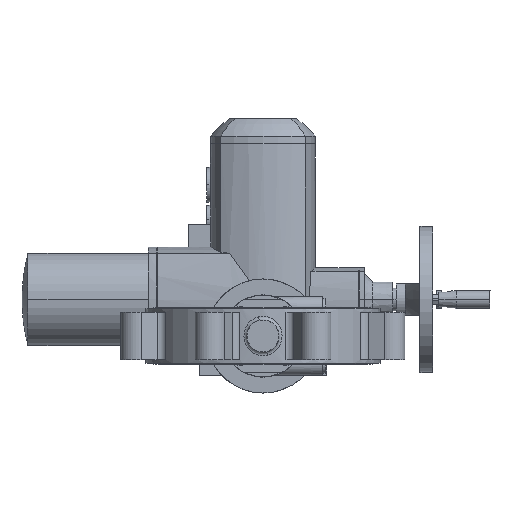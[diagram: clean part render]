
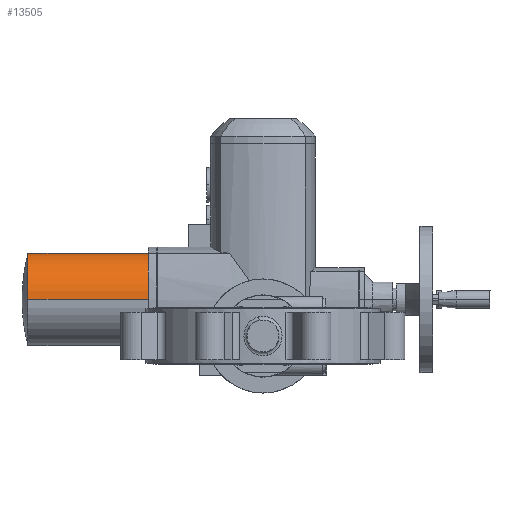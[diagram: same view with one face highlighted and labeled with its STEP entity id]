
A CAD part, front view. The second image highlights one B-rep face of the part: STEP entity #13505.
In plain terms, the highlighted cylindrical face has radius 50.5 mm (diameter 101 mm), a partial arc.
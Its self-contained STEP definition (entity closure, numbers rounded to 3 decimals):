
#261 = LINE ( 'NONE', #7430, #26251 ) ;
#379 = VERTEX_POINT ( 'NONE', #2181 ) ;
#1631 = AXIS2_PLACEMENT_3D ( 'NONE', #28716, #3369, #3533 ) ;
#1702 = EDGE_CURVE ( 'NONE', #2253, #6513, #18137, .T. ) ;
#2155 = DIRECTION ( 'NONE',  ( 1., 0., 0. ) ) ;
#2181 = CARTESIAN_POINT ( 'NONE',  ( -257.519, -40., 83. ) ) ;
#2253 = VERTEX_POINT ( 'NONE', #6177 ) ;
#3369 = DIRECTION ( 'NONE',  ( -1., 0., 0. ) ) ;
#3533 = DIRECTION ( 'NONE',  ( 0., 0., -1. ) ) ;
#4124 = ORIENTED_EDGE ( 'NONE', *, *, #1702, .T. ) ;
#4543 = DIRECTION ( 'NONE',  ( 0., 0., 1. ) ) ;
#4889 = EDGE_CURVE ( 'NONE', #12735, #5079, #26358, .T. ) ;
#5079 = VERTEX_POINT ( 'NONE', #11971 ) ;
#5414 = DIRECTION ( 'NONE',  ( 0., 0., 1. ) ) ;
#5490 = ORIENTED_EDGE ( 'NONE', *, *, #20123, .F. ) ;
#5540 = AXIS2_PLACEMENT_3D ( 'NONE', #29812, #2155, #20681 ) ;
#5676 = CIRCLE ( 'NONE', #13426, 50.5 ) ;
#6177 = CARTESIAN_POINT ( 'NONE',  ( -257.519, -40., 184. ) ) ;
#6225 = DIRECTION ( 'NONE',  ( 1., 0., 0. ) ) ;
#6513 = VERTEX_POINT ( 'NONE', #8627 ) ;
#6979 = CYLINDRICAL_SURFACE ( 'NONE', #9705, 50.5 ) ;
#7430 = CARTESIAN_POINT ( 'NONE',  ( -97.021, -40., 83. ) ) ;
#8627 = CARTESIAN_POINT ( 'NONE',  ( -257.519, -90.5, 133.5 ) ) ;
#9705 = AXIS2_PLACEMENT_3D ( 'NONE', #11225, #16095, #4543 ) ;
#11225 = CARTESIAN_POINT ( 'NONE',  ( -97.021, -40., 133.5 ) ) ;
#11971 = CARTESIAN_POINT ( 'NONE',  ( -125.5, -40., 184. ) ) ;
#12158 = ORIENTED_EDGE ( 'NONE', *, *, #25456, .T. ) ;
#12222 = CARTESIAN_POINT ( 'NONE',  ( -257.519, -40., 133.5 ) ) ;
#12735 = VERTEX_POINT ( 'NONE', #27581 ) ;
#13426 = AXIS2_PLACEMENT_3D ( 'NONE', #12222, #19040, #5414 ) ;
#13505 = ADVANCED_FACE ( 'NONE', ( #22919 ), #6979, .T. ) ;
#13702 = EDGE_LOOP ( 'NONE', ( #4124, #12158, #23963, #21827, #5490 ) ) ;
#16095 = DIRECTION ( 'NONE',  ( 1., 0., 0. ) ) ;
#18038 = LINE ( 'NONE', #22740, #28032 ) ;
#18137 = CIRCLE ( 'NONE', #5540, 50.5 ) ;
#19040 = DIRECTION ( 'NONE',  ( 1., 0., 0. ) ) ;
#20123 = EDGE_CURVE ( 'NONE', #2253, #5079, #18038, .T. ) ;
#20681 = DIRECTION ( 'NONE',  ( 0., 0., 1. ) ) ;
#21827 = ORIENTED_EDGE ( 'NONE', *, *, #4889, .T. ) ;
#22740 = CARTESIAN_POINT ( 'NONE',  ( -97.021, -40., 184. ) ) ;
#22919 = FACE_OUTER_BOUND ( 'NONE', #13702, .T. ) ;
#23963 = ORIENTED_EDGE ( 'NONE', *, *, #26803, .T. ) ;
#25456 = EDGE_CURVE ( 'NONE', #6513, #379, #5676, .T. ) ;
#26251 = VECTOR ( 'NONE', #27743, 1000. ) ;
#26358 = CIRCLE ( 'NONE', #1631, 50.5 ) ;
#26803 = EDGE_CURVE ( 'NONE', #379, #12735, #261, .T. ) ;
#27581 = CARTESIAN_POINT ( 'NONE',  ( -125.5, -40., 83. ) ) ;
#27743 = DIRECTION ( 'NONE',  ( 1., 0., 0. ) ) ;
#28032 = VECTOR ( 'NONE', #6225, 1000. ) ;
#28716 = CARTESIAN_POINT ( 'NONE',  ( -125.5, -40., 133.5 ) ) ;
#29812 = CARTESIAN_POINT ( 'NONE',  ( -257.519, -40., 133.5 ) ) ;
